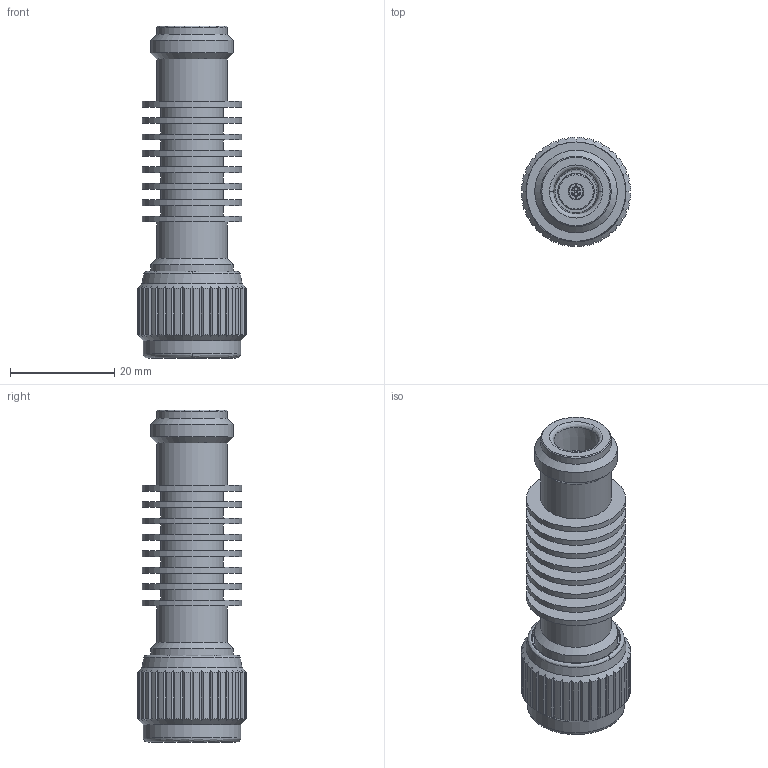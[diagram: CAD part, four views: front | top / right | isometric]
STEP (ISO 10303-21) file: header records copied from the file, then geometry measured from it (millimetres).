
FILE_DESCRIPTION(/* description */ ('Unknown'),/* implementation_level */ '2;1');
FILE_NAME(/* name */ '10-18A-MFN-XX',/* time_stamp */ '2019-01-25T10:54:01-05:00',/* author */ ('Unknown'),/* organization */ ('Unknown'),/* preprocessor_version */ 'ST-DEVELOPER v16.7',/* originating_system */ 'DEX',/* authorisation */ $);
FILE_SCHEMA (('AP203_CONFIGURATION_CONTROLLED_3D_DESIGN_OF_MECHANICAL_PARTS_AND_ASSEMBLIES_MIM_LF { 1 0 10303 203 3 1 4 }','AUTOMOTIVE_DESIGN {1 0 10303 214 3 1 1}'));
Length unit declared in the file: millimetre
Products named in the file (1): 10-18A-MFN-XX
Bounding box: 20.99 x 20.99 x 63.69 mm (x, y, z)
Volume: 9817.8 mm3; surface area: 9091.2 mm2
Topology: 1 solids, 1 shells, 258 faces, 680 edges, 450 vertices
Faces by surface type: plane 120, cylinder 82, cone 46, bspline 10
Full cylindrical faces by diameter (mm): 1.65 x1, 3.03 x2, 6.98 x1, 7 x1, 12.078 x7, 13.5 x3, 14.9 x1, 15.5 x1, 15.838 x1, 15.9 x1, 16.3 x1, 16.8 x1, 18.7 x1, 19.05 x8
Entity records: 7980 total; most frequent: CARTESIAN_POINT 2136, ORIENTED_EDGE 1230, DIRECTION 1116, EDGE_CURVE 615, AXIS2_PLACEMENT_3D 478, VERTEX_POINT 434, FACE_BOUND 333, EDGE_LOOP 332
